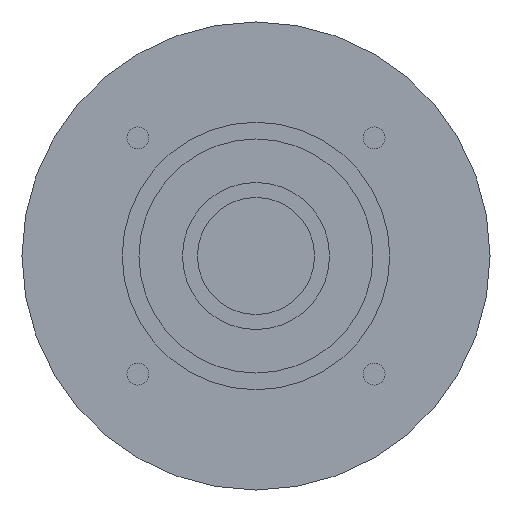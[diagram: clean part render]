
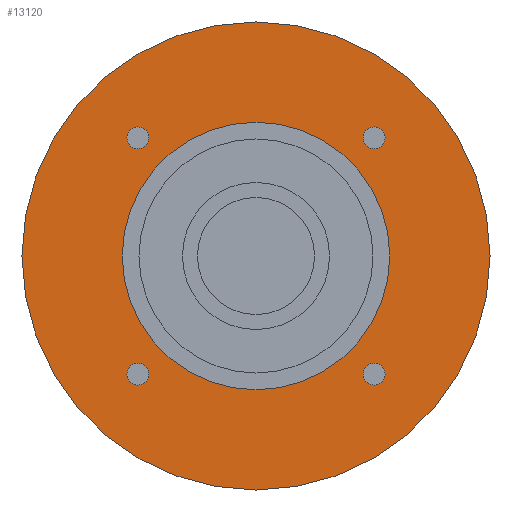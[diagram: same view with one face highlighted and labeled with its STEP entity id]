
A CAD part, left-side view. The second image highlights one B-rep face of the part: STEP entity #13120.
In plain terms, the highlighted planar face has unit normal (-1, 0, 0) as drawn and (0, 0, -1) by its records, which use the part's own axes.
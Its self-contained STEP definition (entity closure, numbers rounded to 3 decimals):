
#10310=CARTESIAN_POINT('',(70.,0.,-84.701));
#10320=VERTEX_POINT('',#10310);
#10350=CARTESIAN_POINT('',(0.,0.,
-84.701));
#10360=DIRECTION('',(0.,0.,-1.));
#10370=DIRECTION('',(-1.,0.,0.));
#10380=AXIS2_PLACEMENT_3D('',#10350,#10360,#10370);
#10390=CIRCLE('',#10380,70.);
#10400=CARTESIAN_POINT('',(-70.,0.,-84.701));
#10410=VERTEX_POINT('',#10400);
#10420=EDGE_CURVE('',#10320,#10410,#10390,.T.);
#12100=CARTESIAN_POINT('',(-32.105,35.355,-84.701));
#12110=VERTEX_POINT('',#12100);
#12140=CARTESIAN_POINT('',(-35.355,35.355,-84.701));
#12150=DIRECTION('',(0.,0.,-1.));
#12160=DIRECTION('',(-1.,0.,0.));
#12170=AXIS2_PLACEMENT_3D('',#12140,#12150,#12160);
#12180=CIRCLE('',#12170,3.25);
#12190=CARTESIAN_POINT('',(-38.605,35.355,-84.701));
#12200=VERTEX_POINT('',#12190);
#12210=EDGE_CURVE('',#12200,#12110,#12180,.T.);
#12330=CARTESIAN_POINT('',(0.,0.,
-84.701));
#12340=DIRECTION('',(0.,0.,-1.));
#12350=DIRECTION('',(1.,0.,0.));
#12360=AXIS2_PLACEMENT_3D('',#12330,#12340,#12350);
#12370=PLANE('',#12360);
#12380=CARTESIAN_POINT('',(35.355,-35.355,-84.701));
#12390=DIRECTION('',(0.,0.,-1.));
#12400=DIRECTION('',(1.,0.,0.));
#12410=AXIS2_PLACEMENT_3D('',#12380,#12390,#12400);
#12420=CIRCLE('',#12410,3.25);
#12430=CARTESIAN_POINT('',(38.605,-35.355,-84.701));
#12440=VERTEX_POINT('',#12430);
#12450=CARTESIAN_POINT('',(32.105,-35.355,-84.701));
#12460=VERTEX_POINT('',#12450);
#12470=EDGE_CURVE('',#12440,#12460,#12420,.T.);
#12480=ORIENTED_EDGE('',*,*,#12470,.F.);
#12490=EDGE_CURVE('',#12460,#12440,#12420,.T.);
#12500=ORIENTED_EDGE('',*,*,#12490,.F.);
#12510=EDGE_LOOP('',(#12500,#12480));
#12520=FACE_BOUND('',#12510,.T.);
#12530=CARTESIAN_POINT('',(35.355,35.355,-84.701));
#12540=DIRECTION('',(0.,0.,-1.));
#12550=DIRECTION('',(0.,1.,0.));
#12560=AXIS2_PLACEMENT_3D('',#12530,#12540,#12550);
#12570=CIRCLE('',#12560,3.25);
#12580=CARTESIAN_POINT('',(35.355,38.605,-84.701));
#12590=VERTEX_POINT('',#12580);
#12600=CARTESIAN_POINT('',(35.355,32.105,-84.701));
#12610=VERTEX_POINT('',#12600);
#12620=EDGE_CURVE('',#12590,#12610,#12570,.T.);
#12630=ORIENTED_EDGE('',*,*,#12620,.F.);
#12640=EDGE_CURVE('',#12610,#12590,#12570,.T.);
#12650=ORIENTED_EDGE('',*,*,#12640,.F.);
#12660=EDGE_LOOP('',(#12650,#12630));
#12670=FACE_BOUND('',#12660,.T.);
#12680=ORIENTED_EDGE('',*,*,#12210,.F.);
#12690=EDGE_CURVE('',#12110,#12200,#12180,.T.);
#12700=ORIENTED_EDGE('',*,*,#12690,.F.);
#12710=EDGE_LOOP('',(#12700,#12680));
#12720=FACE_BOUND('',#12710,.T.);
#12730=CARTESIAN_POINT('',(-35.355,-35.355,-84.701))
;
#12740=DIRECTION('',(0.,0.,-1.));
#12750=DIRECTION('',(0.,-1.,0.));
#12760=AXIS2_PLACEMENT_3D('',#12730,#12740,#12750);
#12770=CIRCLE('',#12760,3.25);
#12780=CARTESIAN_POINT('',(-35.355,-38.605,-84.701))
;
#12790=VERTEX_POINT('',#12780);
#12800=CARTESIAN_POINT('',(-35.355,-32.105,-84.701))
;
#12810=VERTEX_POINT('',#12800);
#12820=EDGE_CURVE('',#12790,#12810,#12770,.T.);
#12830=ORIENTED_EDGE('',*,*,#12820,.F.);
#12840=EDGE_CURVE('',#12810,#12790,#12770,.T.);
#12850=ORIENTED_EDGE('',*,*,#12840,.F.);
#12860=EDGE_LOOP('',(#12850,#12830));
#12870=FACE_BOUND('',#12860,.T.);
#12880=CARTESIAN_POINT('',(0.,0.,
-84.701));
#12890=DIRECTION('',(0.,0.,1.));
#12900=DIRECTION('',(0.,1.,0.));
#12910=AXIS2_PLACEMENT_3D('',#12880,#12890,#12900);
#12920=CIRCLE('',#12910,40.);
#12930=CARTESIAN_POINT('',(-40.,0.,-84.701));
#12940=VERTEX_POINT('',#12930);
#12950=CARTESIAN_POINT('',(40.,0.,-84.701));
#12960=VERTEX_POINT('',#12950);
#12970=EDGE_CURVE('',#12940,#12960,#12920,.T.);
#12980=ORIENTED_EDGE('',*,*,#12970,.T.);
#12990=CARTESIAN_POINT('',(0.,40.,-84.701));
#13000=VERTEX_POINT('',#12990);
#13010=EDGE_CURVE('',#13000,#12940,#12920,.T.);
#13020=ORIENTED_EDGE('',*,*,#13010,.T.);
#13030=EDGE_CURVE('',#12960,#13000,#12920,.T.);
#13040=ORIENTED_EDGE('',*,*,#13030,.T.);
#13050=EDGE_LOOP('',(#13040,#13020,#12980));
#13060=FACE_BOUND('',#13050,.T.);
#13070=EDGE_CURVE('',#10410,#10320,#10390,.T.);
#13080=ORIENTED_EDGE('',*,*,#13070,.T.);
#13090=ORIENTED_EDGE('',*,*,#10420,.T.);
#13100=EDGE_LOOP('',(#13090,#13080));
#13110=FACE_OUTER_BOUND('',#13100,.T.);
#13120=ADVANCED_FACE('',(#12520,#12670,#12720,#12870,#13060,#13110),
#12370,.T.);
